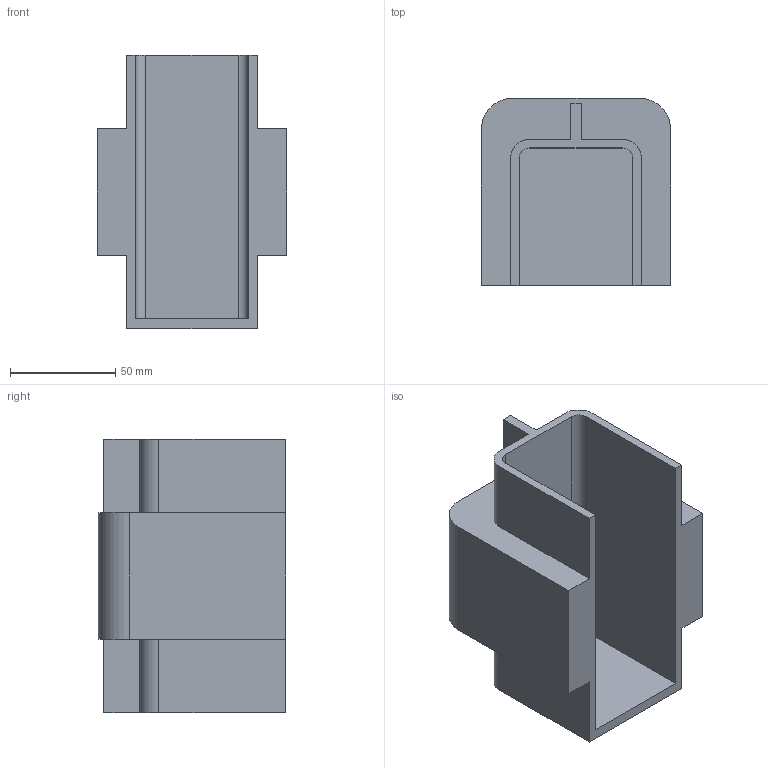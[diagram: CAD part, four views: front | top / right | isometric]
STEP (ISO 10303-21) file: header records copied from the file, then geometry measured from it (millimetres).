
FILE_DESCRIPTION (( 'STEP AP203' ), '1' );
FILE_NAME ('900.503.040.STEP', '2018-03-09T13:09:41', ( '' ), ( '' ), 'SwSTEP 2.0', 'SolidWorks 2016', '' );
FILE_SCHEMA (( 'CONFIG_CONTROL_DESIGN' ));
Length unit declared in the file: millimetre
Products named in the file (1): 900.503.040
Bounding box: 90 x 89 x 130 mm (x, y, z)
Volume: 341001.6 mm3; surface area: 72580 mm2
Topology: 1 solids, 1 shells, 34 faces, 96 edges, 64 vertices
Faces by surface type: plane 26, cylinder 8
Entity records: 1173 total; most frequent: CARTESIAN_POINT 195, ORIENTED_EDGE 192, DIRECTION 182, EDGE_CURVE 96, VECTOR 80, LINE 80, VERTEX_POINT 64, AXIS2_PLACEMENT_3D 51
